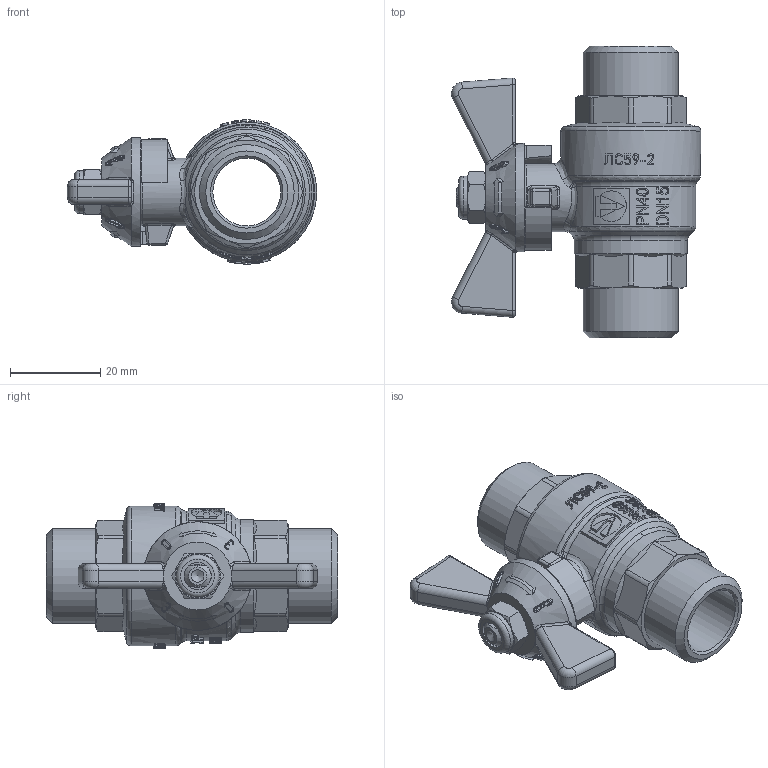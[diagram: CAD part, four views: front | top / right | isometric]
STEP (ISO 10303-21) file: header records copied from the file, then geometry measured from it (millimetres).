
FILE_DESCRIPTION(('STEP AP203'), '1');
FILE_NAME('VT.219S.N.04', '', ('UNSPECIFIED'), ('UNSPECIFIED'), 'C3D Converter', 'C3D Toolkit', '');
FILE_SCHEMA(('CONFIG_CONTROL_DESIGN'));
Length unit declared in the file: millimetre
Products named in the file (1): ВР.491811.009.000 СБ
Bounding box: 55.13 x 64.5 x 31.9 mm (x, y, z)
Volume: 28259.3 mm3; surface area: 12994.6 mm2
Topology: 1 solids, 1 shells, 1711 faces, 4814 edges, 3147 vertices
Faces by surface type: plane 1334, cylinder 121, extrusion 108, bspline 68, cone 61, torus 19
Full cylindrical faces by diameter (mm): 6 x1, 8 x1, 9.5 x1, 10.5 x1, 12 x1, 15 x2, 20.955 x2, 24 x1, 25 x1, 30.9 x1
Entity records: 64204 total; most frequent: CARTESIAN_POINT 27355, ORIENTED_EDGE 9534, DIRECTION 5734, EDGE_CURVE 4767, VERTEX_POINT 3146, AXIS2_PLACEMENT_3D 1942, VECTOR 1850, EDGE_LOOP 1805
